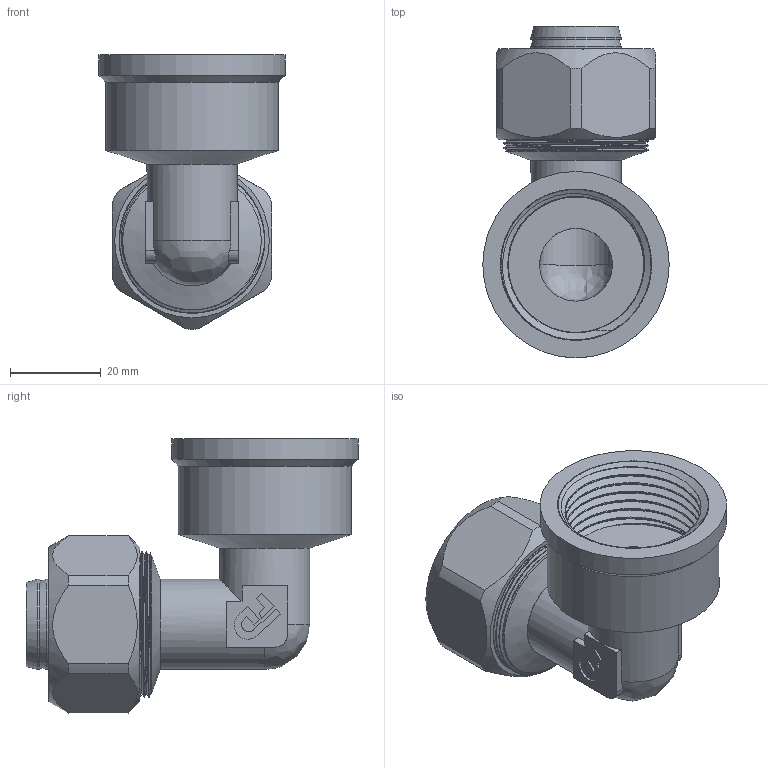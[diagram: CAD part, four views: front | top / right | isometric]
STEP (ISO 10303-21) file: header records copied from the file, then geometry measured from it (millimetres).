
FILE_DESCRIPTION(/* description */ (''),/* implementation_level */ '2;1');
FILE_NAME(/* name */ 'C:\Users\Doom\Desktop\Фадотех\Обжим\RFU15 26x1F 30.03.2020\RFU15 26x1F 30.03.2020.stp',/* time_stamp */ '2022-06-01T16:23:05+03:00',/* author */ ('Doom'),/* organization */ (''),/* preprocessor_version */ 'ST-DEVELOPER v18',/* originating_system */ 'Autodesk Inventor 2020',/* authorisation */ '');
FILE_SCHEMA (('AUTOMOTIVE_DESIGN { 1 0 10303 214 3 1 1 }'));
Length unit declared in the file: millimetre
Products named in the file (5): RFU15 26x1F 30.03.2020; RFU15 26x1F 30.03.2020_1; FADO MC Nut-26 15.02.2020; FADO MC Socket-26 15.02.2020; Olive 26 15.02.2020
Assembly tree (4 placements, depth 2):
  RFU15 26x1F 30.03.2020
    RFU15 26x1F 30.03.2020_1
    FADO MC Nut-26 15.02.2020
    FADO MC Socket-26 15.02.2020
    Olive 26 15.02.2020
Bounding box: 41 x 73 x 60.3 mm (x, y, z)
Volume: 32251.8 mm3; surface area: 37096.8 mm2
Topology: 7 solids, 7 shells, 584 faces, 1618 edges, 1090 vertices
Faces by surface type: bspline 282, plane 181, cylinder 97, cone 21, torus 3
Full cylindrical faces by diameter (mm): 15.5 x1, 16 x2, 17.6 x2, 19.8 x7, 21 x1, 24 x2, 24.5 x1, 26.5 x1, 29.816 x6, 30 x1, 30.517 x13, 30.6 x1, 32 x12, 33.24 x2, 38 x1, 41 x1
Entity records: 38046 total; most frequent: CARTESIAN_POINT 24784, ORIENTED_EDGE 3224, DIRECTION 1849, EDGE_CURVE 1612, VERTEX_POINT 1088, LINE 659, VECTOR 659, B_SPLINE_CURVE_WITH_KNOTS 653
